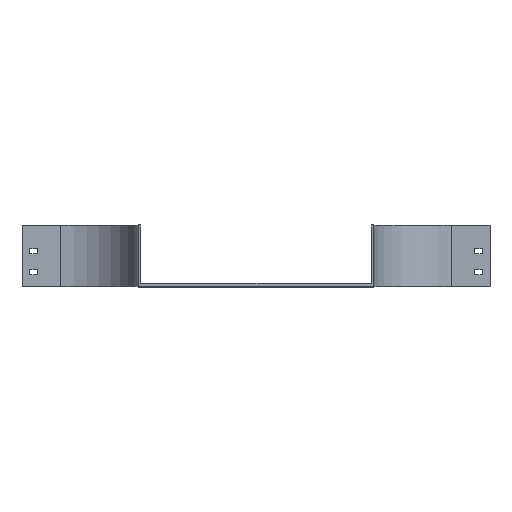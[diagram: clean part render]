
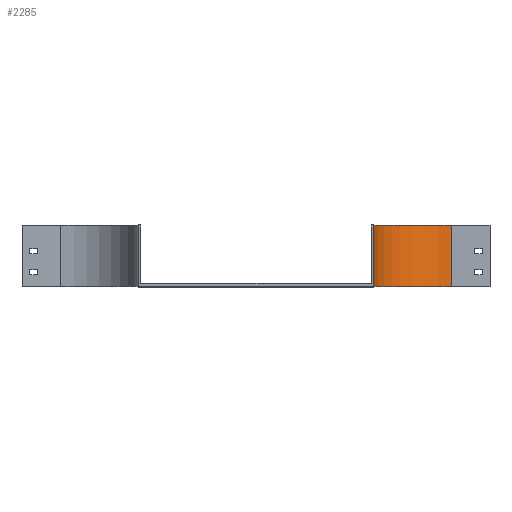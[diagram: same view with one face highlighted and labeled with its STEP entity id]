
A CAD part, top view. The second image highlights one B-rep face of the part: STEP entity #2285.
In plain terms, the highlighted cylindrical face has radius 100 mm (diameter 200 mm), a partial arc.
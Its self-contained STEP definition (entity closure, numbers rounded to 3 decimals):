
#32 = DIRECTION ( 'NONE',  ( 0., 0., -1. ) ) ;
#224 = VERTEX_POINT ( 'NONE', #2882 ) ;
#275 = VERTEX_POINT ( 'NONE', #1106 ) ;
#320 = DIRECTION ( 'NONE',  ( 0., 0., -1. ) ) ;
#356 = EDGE_CURVE ( 'NONE', #275, #224, #1452, .T. ) ;
#559 = EDGE_LOOP ( 'NONE', ( #2398, #2376, #2550, #1025 ) ) ;
#637 = VERTEX_POINT ( 'NONE', #3789 ) ;
#976 = VECTOR ( 'NONE', #2050, 1000. ) ;
#1012 = CIRCLE ( 'NONE', #2129, 100. ) ;
#1025 = ORIENTED_EDGE ( 'NONE', *, *, #356, .T. ) ;
#1106 = CARTESIAN_POINT ( 'NONE',  ( -100., 79., 0. ) ) ;
#1153 = LINE ( 'NONE', #1191, #2699 ) ;
#1177 = FACE_OUTER_BOUND ( 'NONE', #559, .T. ) ;
#1191 = CARTESIAN_POINT ( 'NONE',  ( 0., 79., -100. ) ) ;
#1234 = CARTESIAN_POINT ( 'NONE',  ( 0., 0., 0. ) ) ;
#1367 = CIRCLE ( 'NONE', #2409, 100. ) ;
#1452 = LINE ( 'NONE', #2348, #976 ) ;
#1513 = EDGE_CURVE ( 'NONE', #3523, #637, #1153, .T. ) ;
#1528 = CARTESIAN_POINT ( 'NONE',  ( 0., 79., 0. ) ) ;
#2050 = DIRECTION ( 'NONE',  ( 0., -1., 0. ) ) ;
#2055 = DIRECTION ( 'NONE',  ( 0., -1., 0. ) ) ;
#2129 = AXIS2_PLACEMENT_3D ( 'NONE', #3308, #2703, #32 ) ;
#2285 = ADVANCED_FACE ( 'NONE', ( #1177 ), #2712, .F. ) ;
#2348 = CARTESIAN_POINT ( 'NONE',  ( -100., 79., 0. ) ) ;
#2376 = ORIENTED_EDGE ( 'NONE', *, *, #1513, .F. ) ;
#2398 = ORIENTED_EDGE ( 'NONE', *, *, #3047, .T. ) ;
#2409 = AXIS2_PLACEMENT_3D ( 'NONE', #1234, #2654, #3827 ) ;
#2550 = ORIENTED_EDGE ( 'NONE', *, *, #3623, .F. ) ;
#2654 = DIRECTION ( 'NONE',  ( 0., -1., 0. ) ) ;
#2699 = VECTOR ( 'NONE', #3802, 1000. ) ;
#2703 = DIRECTION ( 'NONE',  ( 0., -1., 0. ) ) ;
#2712 = CYLINDRICAL_SURFACE ( 'NONE', #3037, 100. ) ;
#2882 = CARTESIAN_POINT ( 'NONE',  ( -100., 0., 0. ) ) ;
#2955 = CARTESIAN_POINT ( 'NONE',  ( 0., 79., -100. ) ) ;
#3037 = AXIS2_PLACEMENT_3D ( 'NONE', #1528, #2055, #320 ) ;
#3047 = EDGE_CURVE ( 'NONE', #224, #637, #1367, .T. ) ;
#3308 = CARTESIAN_POINT ( 'NONE',  ( 0., 79., 0. ) ) ;
#3523 = VERTEX_POINT ( 'NONE', #2955 ) ;
#3623 = EDGE_CURVE ( 'NONE', #275, #3523, #1012, .T. ) ;
#3789 = CARTESIAN_POINT ( 'NONE',  ( 0., 0., -100. ) ) ;
#3802 = DIRECTION ( 'NONE',  ( 0., -1., 0. ) ) ;
#3827 = DIRECTION ( 'NONE',  ( 0., 0., -1. ) ) ;
